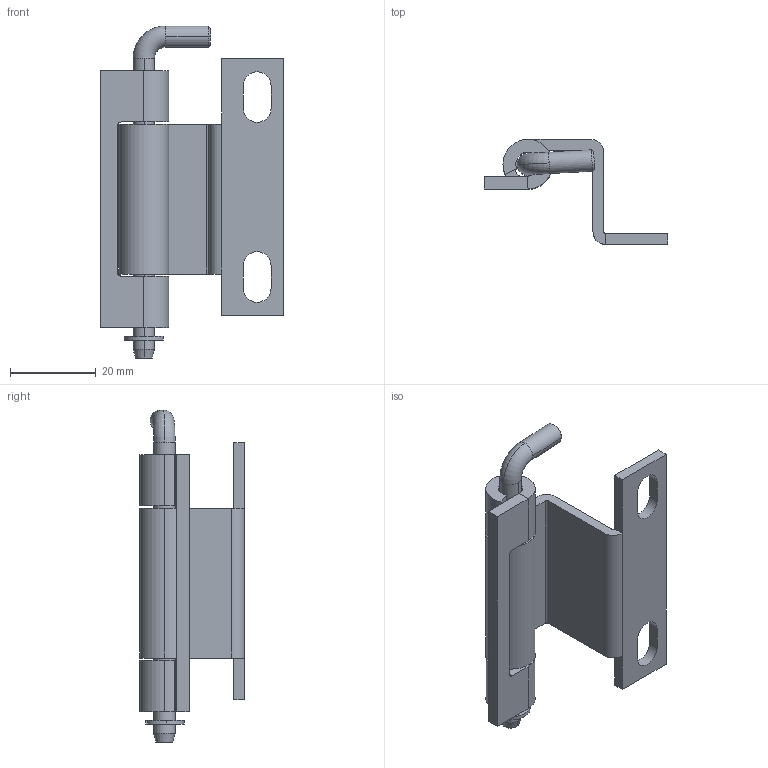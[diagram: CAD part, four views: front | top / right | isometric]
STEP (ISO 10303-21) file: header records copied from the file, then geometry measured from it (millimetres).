
FILE_DESCRIPTION (( 'STEP AP203' ), '1' );
FILE_NAME ('XG02-043-4.STEP', '2023-12-08T06:35:32', ( '' ), ( '' ), 'SwSTEP 2.0', 'SolidWorks 2020', '' );
FILE_SCHEMA (( 'CONFIG_CONTROL_DESIGN' ));
Length unit declared in the file: millimetre
Products named in the file (5): XG02-043-4; HL031-1B; HL031 C- C; 250-4-1-1; 250-4-2
Assembly tree (4 placements, depth 2):
  XG02-043-4
    HL031-1B
    HL031 C- C
    250-4-2
    250-4-1-1
Bounding box: 42.9 x 24.5 x 77.5 mm (x, y, z)
Volume: 11802.1 mm3; surface area: 10765.6 mm2
Topology: 4 solids, 4 shells, 98 faces, 252 edges, 164 vertices
Faces by surface type: plane 47, cylinder 45, cone 4, torus 2
Entity records: 3531 total; most frequent: DIRECTION 562, CARTESIAN_POINT 521, ORIENTED_EDGE 504, EDGE_CURVE 252, AXIS2_PLACEMENT_3D 205, VERTEX_POINT 164, LINE 152, VECTOR 152
